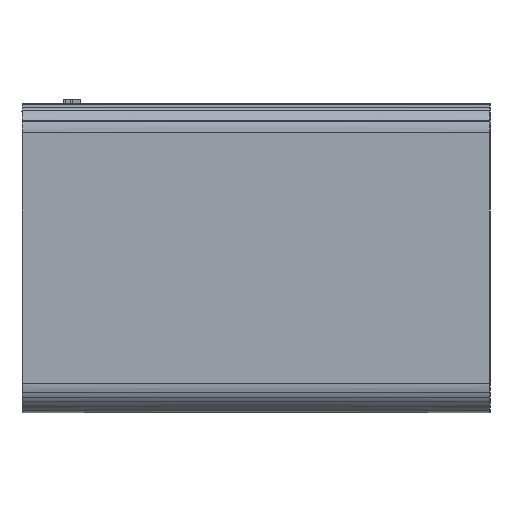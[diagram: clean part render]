
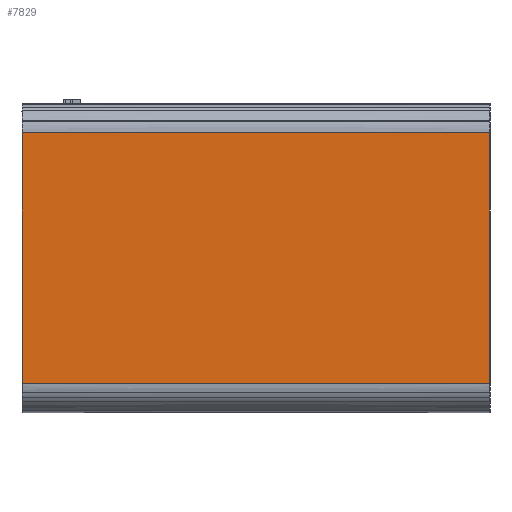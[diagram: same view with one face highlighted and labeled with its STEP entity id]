
A CAD part, left-side view. The second image highlights one B-rep face of the part: STEP entity #7829.
In plain terms, the highlighted planar face has unit normal (-1, 0, 0).
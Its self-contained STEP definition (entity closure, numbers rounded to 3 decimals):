
#7822 = VERTEX_POINT ( 'NONE', #49453 ) ;
#7824 = EDGE_CURVE ( 'NONE', #7825, #7822, #49507, .T. ) ;
#7825 = VERTEX_POINT ( 'NONE', #49489 ) ;
#7829 = ADVANCED_FACE ( 'NONE', ( #49487 ), #49481, .T. ) ;
#7830 = EDGE_LOOP ( 'NONE', ( #7831, #7834, #7922, #7924 ) ) ;
#7831 = ORIENTED_EDGE ( 'NONE', *, *, #7832, .F. ) ;
#7832 = EDGE_CURVE ( 'NONE', #7833, #7822, #49590, .T. ) ;
#7833 = VERTEX_POINT ( 'NONE', #49584 ) ;
#7834 = ORIENTED_EDGE ( 'NONE', *, *, #7835, .F. ) ;
#7835 = EDGE_CURVE ( 'NONE', #7836, #7833, #49580, .T. ) ;
#7836 = VERTEX_POINT ( 'NONE', #49574 ) ;
#7922 = ORIENTED_EDGE ( 'NONE', *, *, #7923, .T. ) ;
#7923 = EDGE_CURVE ( 'NONE', #7836, #7825, #50273, .T. ) ;
#7924 = ORIENTED_EDGE ( 'NONE', *, *, #7824, .T. ) ;
#49453 = CARTESIAN_POINT ( 'NONE',  ( -9.21, 0., 3.81 ) ) ;
#49481 = PLANE ( 'NONE',  #49485 ) ;
#49485 = AXIS2_PLACEMENT_3D ( 'NONE', #49597, #49595, #49594 ) ;
#49487 = FACE_OUTER_BOUND ( 'NONE', #7830, .T. ) ;
#49489 = CARTESIAN_POINT ( 'NONE',  ( -9.21, -14.25, 3.81 ) ) ;
#49503 = DIRECTION ( 'NONE',  ( 0., 1., 0. ) ) ;
#49504 = VECTOR ( 'NONE', #49503, 39.37 ) ;
#49505 = CARTESIAN_POINT ( 'NONE',  ( -9.21, -14.25, 3.81 ) ) ;
#49507 = LINE ( 'NONE', #49505, #49504 ) ;
#49574 = CARTESIAN_POINT ( 'NONE',  ( -9.21, -14.25, -3.81 ) ) ;
#49577 = DIRECTION ( 'NONE',  ( 0., 1., 0. ) ) ;
#49578 = VECTOR ( 'NONE', #49577, 39.37 ) ;
#49579 = CARTESIAN_POINT ( 'NONE',  ( -9.21, -14.25, -3.81 ) ) ;
#49580 = LINE ( 'NONE', #49579, #49578 ) ;
#49584 = CARTESIAN_POINT ( 'NONE',  ( -9.21, 0., -3.81 ) ) ;
#49587 = DIRECTION ( 'NONE',  ( 0., 0., 1. ) ) ;
#49588 = VECTOR ( 'NONE', #49587, 39.37 ) ;
#49589 = CARTESIAN_POINT ( 'NONE',  ( -9.21, 0., -3.81 ) ) ;
#49590 = LINE ( 'NONE', #49589, #49588 ) ;
#49594 = DIRECTION ( 'NONE',  ( 0., 0., 1. ) ) ;
#49595 = DIRECTION ( 'NONE',  ( -1., 0., 0. ) ) ;
#49597 = CARTESIAN_POINT ( 'NONE',  ( -9.21, -14.25, -3.81 ) ) ;
#50270 = DIRECTION ( 'NONE',  ( 0., 0., 1. ) ) ;
#50271 = VECTOR ( 'NONE', #50270, 39.37 ) ;
#50272 = CARTESIAN_POINT ( 'NONE',  ( -9.21, -14.25, -3.81 ) ) ;
#50273 = LINE ( 'NONE', #50272, #50271 ) ;
